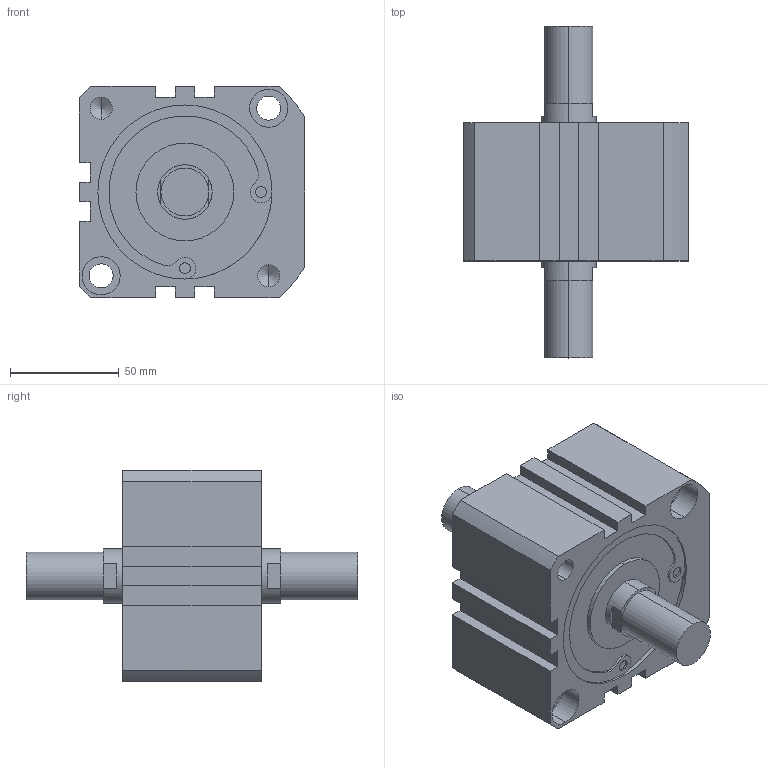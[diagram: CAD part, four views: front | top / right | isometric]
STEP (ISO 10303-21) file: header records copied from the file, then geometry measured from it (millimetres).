
FILE_DESCRIPTION (( 'STEP AP203' ), '1' );
FILE_NAME ('XC#M7-80-10.STEP', '2016-05-23T09:05:04', ( '' ), ( '' ), 'SwSTEP 2.0', 'SolidWorks 2014', '' );
FILE_SCHEMA (( 'CONFIG_CONTROL_DESIGN' ));
Length unit declared in the file: millimetre
Products named in the file (1): XC#M7-80-10
Bounding box: 103.5 x 152.5 x 97 mm (x, y, z)
Volume: 597509.2 mm3; surface area: 65537.6 mm2
Topology: 1 solids, 1 shells, 142 faces, 350 edges, 224 vertices
Faces by surface type: cylinder 66, plane 60, cone 16
Entity records: 4301 total; most frequent: DIRECTION 790, CARTESIAN_POINT 713, ORIENTED_EDGE 692, EDGE_CURVE 346, AXIS2_PLACEMENT_3D 301, VERTEX_POINT 224, VECTOR 188, LINE 188
